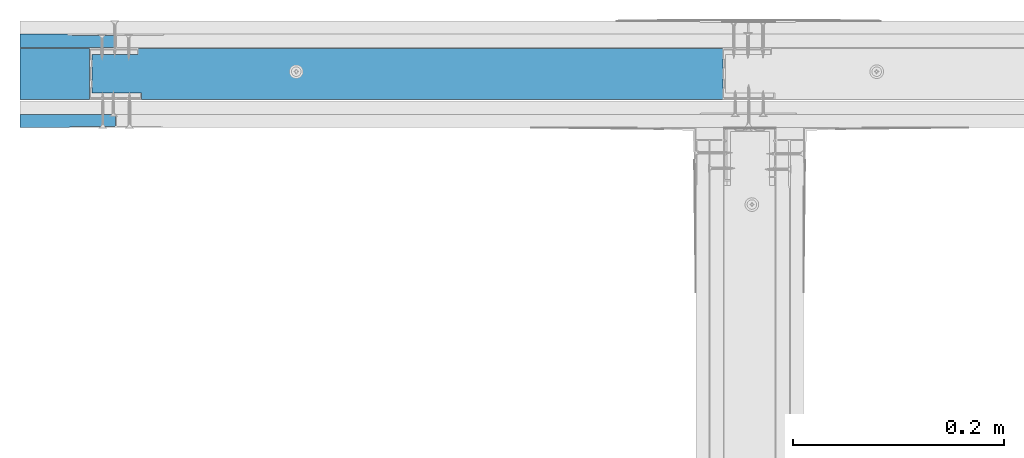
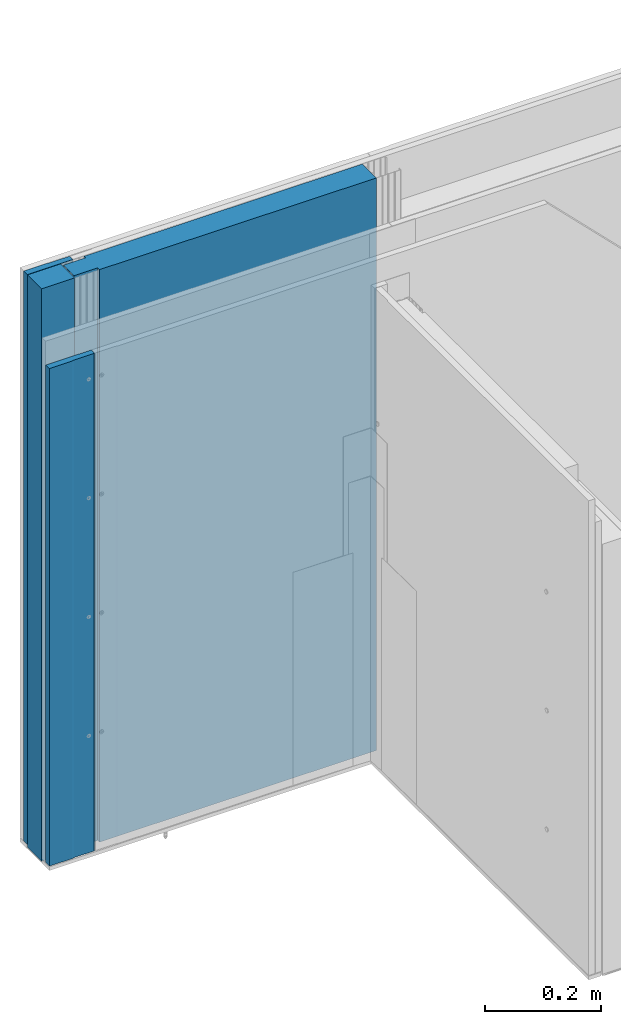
# One storey, part 2 of 89: 4 walls.
"""IFC2X3 building model written with IfcOpenShell, lengths in millimetres."""

from ifc_helpers import new_model, entity, si_unit, converted_unit, direction, frame, origin, origin_with_axes, place, context, project, spatial, faceted_brep, element, save


model = new_model("IFC2X3")

# Units and contexts
model_context = context("Model", 3, precision=1e-05, world=origin(), true_north=direction((0.0, 1.0, 0.0)))
ifc_project = project(units=[si_unit("LENGTHUNIT", "METRE", prefix="MILLI"), si_unit("AREAUNIT", "SQUARE_METRE"), si_unit("VOLUMEUNIT", "CUBIC_METRE"), converted_unit("PLANEANGLEUNIT", "DEGREE", entity("IfcPlaneAngleMeasure", 0.01745), si_unit("PLANEANGLEUNIT", "RADIAN"), dimensions=[0, 0, 0, 0, 0, 0, 0]), si_unit("SOLIDANGLEUNIT", "STERADIAN"), si_unit("MASSUNIT", "GRAM"), si_unit("TIMEUNIT", "SECOND"), si_unit("THERMODYNAMICTEMPERATUREUNIT", "DEGREE_CELSIUS"), si_unit("LUMINOUSINTENSITYUNIT", "LUMEN")], contexts=[model_context])

# Site, building, storey
site_placement = place(None, origin_with_axes())
site = spatial("IfcSite", under=ifc_project, at=site_placement, Name="Default Site", CompositionType="ELEMENT")
building_placement = place(site_placement, origin_with_axes())
building = spatial("IfcBuilding", under=site, at=building_placement, Name="Default Building", CompositionType="ELEMENT")
storey_placement = place(building_placement, origin_with_axes())
storey = spatial("IfcBuildingStorey", under=building, at=storey_placement, Name="Default Building Storey", CompositionType="ELEMENT", Elevation=0.0)

# Walls
wall_1_placement = place(storey_placement, frame((2215.544899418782, 2034.640922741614, 1403.656223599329), z_axis=(0.0, 0.0, 1.0), x_axis=(-1.0, 0.0, 0.0)))
element("IfcWall", 1, at=wall_1_placement, inside=storey, Name="Płyta gipsowo-kartonowa RIGIPS PRO (4PRO™)", context=model_context, shape_type="Brep", body=[
    faceted_brep([(90.51976594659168, 12.4999999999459, -345.4072263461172), (90.51976594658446, -5.558717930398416e-11, -345.4072263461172), (90.51976594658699, -5.630909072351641e-11, -1391.906159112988), (90.5197659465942, 12.49999999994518, -1391.906159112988), (-1.082867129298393e-12, 1.082867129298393e-12, -345.4072263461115), (44.99999999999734, 12.50000000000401, -345.4072263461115), (40.99999999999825, 11.50000000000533, -345.4072263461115), (0.9999999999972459, 11.50000000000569, -345.4072263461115), (0.7411809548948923, 11.4659258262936, -345.4072263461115), (0.4999999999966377, 11.36602540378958, -345.4072263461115), (0.2928932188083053, 11.20710678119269, -345.4072263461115), (0.1339745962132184, 11.000000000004, -345.4072263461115), (0.0340741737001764, 10.75881904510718, -345.4072263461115), (-3.97051280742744e-12, 10.50000000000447, -345.4072263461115), (44.99999999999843, 12.50000000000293, -1391.906159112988), (40.99999999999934, 11.50000000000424, -1391.906159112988), (0.9999999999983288, 11.5000000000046, -1391.906159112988), (0.7411809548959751, 11.46592582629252, -1391.906159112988), (0.4999999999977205, 11.3660254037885, -1391.906159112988), (0.2928932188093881, 11.20710678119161, -1391.906159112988), (0.1339745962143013, 11.00000000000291, -1391.906159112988), (0.03407417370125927, 10.7588190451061, -1391.906159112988), (-2.887645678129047e-12, 10.50000000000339, -1391.906159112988), (0.0, 0.0, -1391.906159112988)], [[[0, 1, 2, 3]], [[4, 1, 0, 5, 6, 7, 8, 9, 10, 11, 12, 13]], [[0, 3, 14, 5]], [[6, 5, 14, 15]], [[7, 6, 15, 16]], [[8, 7, 16, 17]], [[9, 8, 17, 18]], [[10, 9, 18, 19]], [[11, 10, 19, 20]], [[12, 11, 20, 21]], [[13, 12, 21, 22]], [[4, 13, 22, 23]], [[23, 2, 1, 4]], [[14, 3, 2, 23, 22, 21, 20, 19, 18, 17, 16, 15]]]),
])
wall_2_placement = place(storey_placement, frame((1754.620820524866, 5528.384991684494, 108.8006114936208), z_axis=(0.0, 0.0, 1.0), x_axis=(1.0, 0.0, 0.0)))
element("IfcWall", 2, at=wall_2_placement, inside=storey, Name="Wełna mineralna szklana lub skalna ISOVER", context=model_context, shape_type="Brep", body=[
    faceted_brep([(370.4043129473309, -3431.283223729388, 1101.199388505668), (370.4043129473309, -3479.633223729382, 1101.199388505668), (370.4043129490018, -3479.633223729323, -103.0602162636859), (370.4043129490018, -3431.283223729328, -103.0602162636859), (436.3541180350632, -3431.283223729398, -103.0602162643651), (436.3541180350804, -3431.283223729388, 1101.199388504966), (436.3541180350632, -3479.633223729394, -103.060216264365), (436.3541180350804, -3479.633223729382, 1101.199388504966)], [[[0, 1, 2, 3]], [[3, 4, 5, 0]], [[2, 6, 4, 3]], [[2, 1, 7, 6]], [[0, 5, 7, 1]], [[6, 7, 5, 4]]]),
])
wall_3_placement = place(storey_placement, frame((2354.63066985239, 5528.384991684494, 108.8006114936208), z_axis=(0.0, 0.0, 1.0), x_axis=(1.0, 0.0, 0.0)))
element("IfcWall", 3, at=wall_3_placement, inside=storey, Name="Wełna mineralna szklana lub skalna ISOVER", context=model_context, shape_type="Brep", body=[
    faceted_brep([(-161.2958819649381, -3473.633223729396, -103.060216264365), (-161.2958819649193, -3473.633223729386, 1101.199388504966), (-114.6214102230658, -3473.633223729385, 1101.199388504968), (-114.6214102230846, -3473.633223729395, -103.0602162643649), (-114.6214102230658, -3479.633223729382, 1101.199388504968), (-114.6214102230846, -3479.633223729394, -103.0602162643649), (-161.2958819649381, -3436.833223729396, -103.060216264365), (-161.2958819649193, -3436.833223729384, 1101.199388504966), (-117.6214102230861, -3436.833223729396, -103.060216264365), (-117.6214102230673, -3436.833223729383, 1101.199388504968), (-117.6214102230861, -3431.283223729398, -103.0602162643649), (436.3541180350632, -3431.283223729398, -103.0602162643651), (436.3541180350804, -3431.283223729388, 1101.199388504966), (-117.6214102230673, -3431.283223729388, 1101.199388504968), (436.3541180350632, -3479.633223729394, -103.060216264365), (436.3541180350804, -3479.633223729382, 1101.199388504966)], [[[0, 1, 2, 3]], [[3, 2, 4, 5]], [[1, 0, 6, 7]], [[7, 6, 8, 9]], [[10, 11, 12, 13]], [[9, 8, 10, 13]], [[3, 5, 14, 11, 10, 8, 6, 0]], [[4, 15, 14, 5]], [[15, 4, 2, 1, 7, 9, 13, 12]], [[14, 15, 12, 11]]]),
])
wall_4_placement = place(storey_placement, frame((2215.544899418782, 2098.101767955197, 1403.656223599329), z_axis=(0.0, 0.0, 1.0), x_axis=(-1.0, 0.0, 0.0)))
element("IfcWall", 4, at=wall_4_placement, inside=storey, Name="Płyta gipsowo-kartonowa RIGIPS PRO (4PRO™)", context=model_context, shape_type="Brep", body=[
    faceted_brep([(90.51976594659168, -12.4999999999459, -193.6562235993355), (90.51976594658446, 5.558717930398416e-11, -193.6562235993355), (90.51976594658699, 5.630909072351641e-11, -1391.906159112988), (90.5197659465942, -12.49999999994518, -1391.906159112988), (-1.082867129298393e-12, -1.082867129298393e-12, -193.6562235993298), (44.99999999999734, -12.50000000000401, -193.6562235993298), (40.99999999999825, -11.50000000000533, -193.6562235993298), (0.9999999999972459, -11.50000000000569, -193.6562235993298), (0.7411809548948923, -11.4659258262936, -193.6562235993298), (0.4999999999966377, -11.36602540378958, -193.6562235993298), (0.2928932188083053, -11.20710678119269, -193.6562235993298), (0.1339745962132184, -11.000000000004, -193.6562235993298), (0.0340741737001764, -10.75881904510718, -193.6562235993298), (-3.97051280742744e-12, -10.50000000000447, -193.6562235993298), (44.99999999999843, -12.50000000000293, -1391.906159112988), (40.99999999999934, -11.50000000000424, -1391.906159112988), (0.9999999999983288, -11.5000000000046, -1391.906159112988), (0.7411809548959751, -11.46592582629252, -1391.906159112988), (0.4999999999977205, -11.3660254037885, -1391.906159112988), (0.2928932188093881, -11.20710678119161, -1391.906159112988), (0.1339745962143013, -11.00000000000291, -1391.906159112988), (0.03407417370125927, -10.7588190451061, -1391.906159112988), (-2.887645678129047e-12, -10.50000000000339, -1391.906159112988), (0.0, 0.0, -1391.906159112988)], [[[0, 1, 2, 3]], [[4, 1, 0, 5, 6, 7, 8, 9, 10, 11, 12, 13]], [[0, 3, 14, 5]], [[6, 5, 14, 15]], [[7, 6, 15, 16]], [[8, 7, 16, 17]], [[9, 8, 17, 18]], [[10, 9, 18, 19]], [[11, 10, 19, 20]], [[12, 11, 20, 21]], [[13, 12, 21, 22]], [[4, 13, 22, 23]], [[23, 2, 1, 4]], [[14, 3, 2, 23, 22, 21, 20, 19, 18, 17, 16, 15]]]),
])

save(model, "model.ifc")
